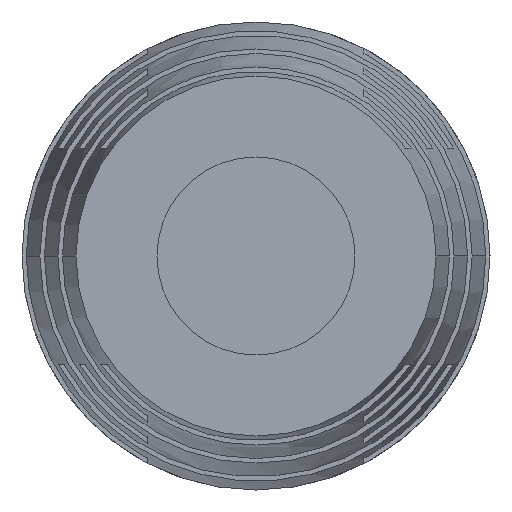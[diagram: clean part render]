
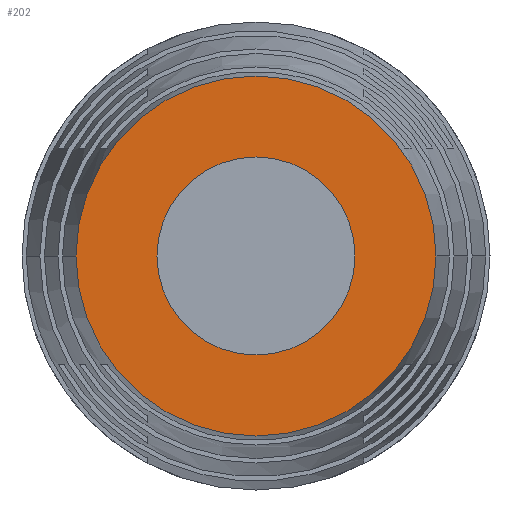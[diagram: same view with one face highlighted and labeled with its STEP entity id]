
A CAD part, left-side view. The second image highlights one B-rep face of the part: STEP entity #202.
In plain terms, the highlighted planar face has unit normal (-1, 0, 0).
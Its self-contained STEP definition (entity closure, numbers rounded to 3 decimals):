
#202 = ADVANCED_FACE( '', ( #493, #494 ), #495, .T. );
#493 = FACE_BOUND( '', #787, .T. );
#494 = FACE_OUTER_BOUND( '', #788, .T. );
#495 = PLANE( '', #789 );
#787 = EDGE_LOOP( '', ( #1725, #1726 ) );
#788 = EDGE_LOOP( '', ( #1727, #1728 ) );
#789 = AXIS2_PLACEMENT_3D( '', #1729, #1730, #1731 );
#1725 = ORIENTED_EDGE( '', *, *, #1745, .F. );
#1726 = ORIENTED_EDGE( '', *, *, #2022, .F. );
#1727 = ORIENTED_EDGE( '', *, *, #1897, .T. );
#1728 = ORIENTED_EDGE( '', *, *, #1936, .T. );
#1729 = CARTESIAN_POINT( '', ( -85., 7.75, 0. ) );
#1730 = DIRECTION( '', ( -1., 0., 0. ) );
#1731 = DIRECTION( '', ( 0., 1., 0. ) );
#1745 = EDGE_CURVE( '', #2024, #2027, #2028, .T. );
#1897 = EDGE_CURVE( '', #2329, #2327, #2330, .T. );
#1936 = EDGE_CURVE( '', #2327, #2329, #2392, .T. );
#2022 = EDGE_CURVE( '', #2027, #2024, #2488, .T. );
#2024 = VERTEX_POINT( '', #2490 );
#2027 = VERTEX_POINT( '', #2494 );
#2028 = CIRCLE( '', #2495, 5.5 );
#2327 = VERTEX_POINT( '', #2950 );
#2329 = VERTEX_POINT( '', #2953 );
#2330 = CIRCLE( '', #2954, 10. );
#2392 = CIRCLE( '', #3120, 10. );
#2488 = CIRCLE( '', #3266, 5.5 );
#2490 = CARTESIAN_POINT( '', ( -85., 5.5, 0. ) );
#2494 = CARTESIAN_POINT( '', ( -85., -5.5, 0. ) );
#2495 = AXIS2_PLACEMENT_3D( '', #3269, #3270, #3271 );
#2950 = CARTESIAN_POINT( '', ( -85., -10., 0. ) );
#2953 = CARTESIAN_POINT( '', ( -85., 10., 0. ) );
#2954 = AXIS2_PLACEMENT_3D( '', #3561, #3562, #3563 );
#3120 = AXIS2_PLACEMENT_3D( '', #3620, #3621, #3622 );
#3266 = AXIS2_PLACEMENT_3D( '', #3838, #3839, #3840 );
#3269 = CARTESIAN_POINT( '', ( -85., 0., 0. ) );
#3270 = DIRECTION( '', ( -1., 0., 0. ) );
#3271 = DIRECTION( '', ( 0., 1., 0. ) );
#3561 = CARTESIAN_POINT( '', ( -85., 0., 0. ) );
#3562 = DIRECTION( '', ( -1., 0., 0. ) );
#3563 = DIRECTION( '', ( 0., 1., 0. ) );
#3620 = CARTESIAN_POINT( '', ( -85., 0., 0. ) );
#3621 = DIRECTION( '', ( -1., 0., 0. ) );
#3622 = DIRECTION( '', ( 0., 1., 0. ) );
#3838 = CARTESIAN_POINT( '', ( -85., 0., 0. ) );
#3839 = DIRECTION( '', ( -1., 0., 0. ) );
#3840 = DIRECTION( '', ( 0., 1., 0. ) );
